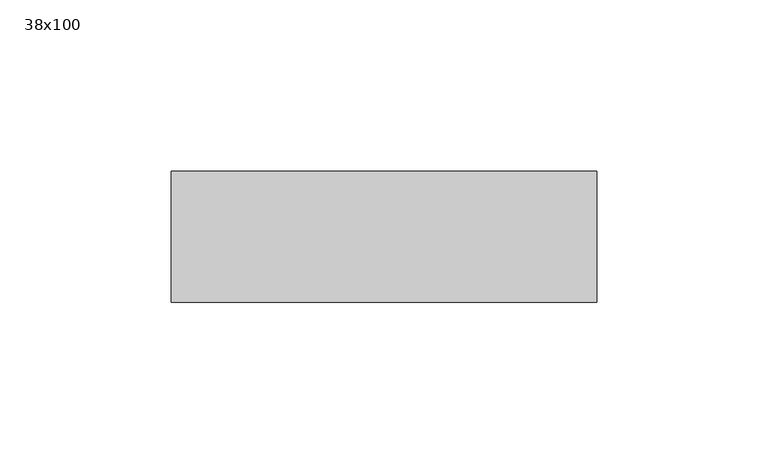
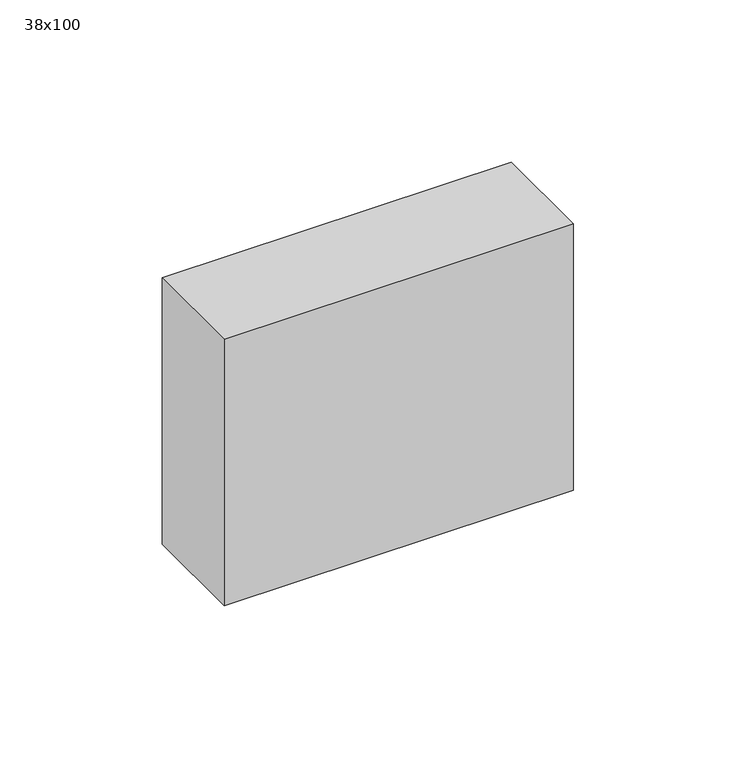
"""IFC4 building model written with IfcOpenShell, lengths in millimetres: beam geometry, Poutre - Bois de construction de dimensions courantes : 38x100."""

from ifc_helpers import new_model, si_unit, frame, origin, place, context, project, spatial, polyline, outline, extrude, source, transform, mapped, element, save


def beam_38x100_ea98bd41(model_context):
    return source(origin(), model_context, "Body", "SweptSolid", [
        extrude(outline(polyline([(57.5, 19.05), (57.5, -19.05), (-66.5, -19.05), (-66.5, 19.05), (57.5, 19.05)])), frame((0.0, 0.0, -50.0), z_axis=(0.0, 0.0, 1.0), x_axis=(1.0, 0.0, 0.0)), (0.0, 0.0, 1.0), 100.0),
    ])


if __name__ == "__main__":
    model = new_model("IFC4")
    model_context = context("Model", 3, world=origin())
    ifc_project = project(units=[si_unit("LENGTHUNIT", "METRE", prefix="MILLI")], contexts=[model_context])
    site = spatial("IfcSite", under=ifc_project)
    building = spatial("IfcBuilding", under=site)
    placement = place(None, origin())
    beam_38x100_shape = beam_38x100_ea98bd41(model_context)
    element("IfcBeam", 1, ObjectType="Poutre - Bois de construction de dimensions courantes : 38x100", at=placement, inside=building, context=model_context, shape_type="MappedRepresentation", body=[
        mapped(beam_38x100_shape, transform((0.0, 0.0, 0.0), x_axis=(1.0, 0.0, 0.0), y_axis=(0.0, 1.0, 0.0), z_axis=(0.0, 0.0, 1.0))),
    ])
    save(model, "model.ifc")
